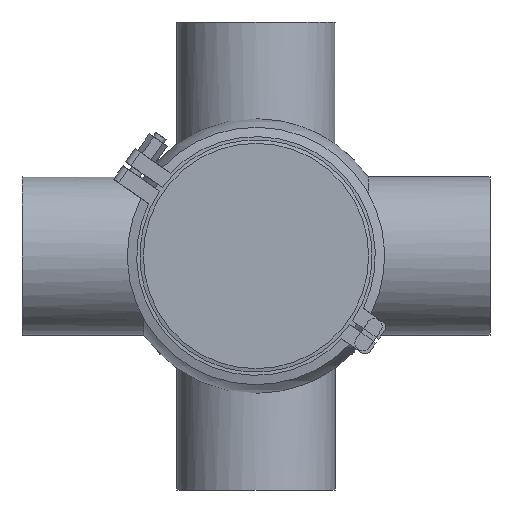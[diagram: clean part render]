
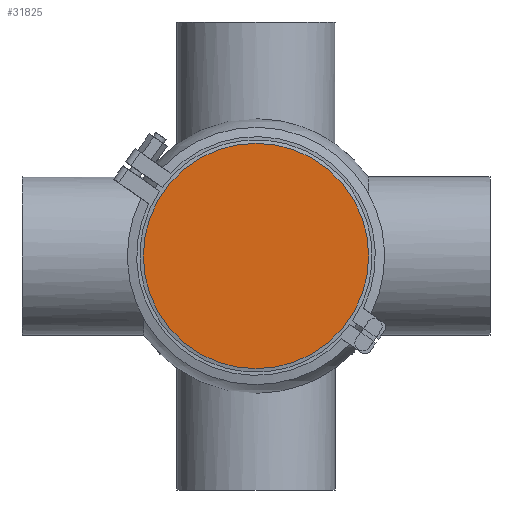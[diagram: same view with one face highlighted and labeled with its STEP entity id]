
A CAD part, front view. The second image highlights one B-rep face of the part: STEP entity #31825.
In plain terms, the highlighted planar face has unit normal (0, -1, 0).
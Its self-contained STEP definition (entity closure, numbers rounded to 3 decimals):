
#1245 = CARTESIAN_POINT ( 'NONE',  ( 0., 0., 72.25 ) ) ;
#2668 = AXIS2_PLACEMENT_3D ( 'NONE', #45936, #26470, #8291 ) ;
#8291 = DIRECTION ( 'NONE',  ( 0., 0., -1. ) ) ;
#12935 = EDGE_CURVE ( 'NONE', #49412, #49412, #29051, .T. ) ;
#13482 = DIRECTION ( 'NONE',  ( 0., 1., 0. ) ) ;
#24579 = EDGE_LOOP ( 'NONE', ( #26239 ) ) ;
#26239 = ORIENTED_EDGE ( 'NONE', *, *, #12935, .F. ) ;
#26470 = DIRECTION ( 'NONE',  ( 0., -1., 0. ) ) ;
#29051 = CIRCLE ( 'NONE', #37897, 72.25 ) ;
#31825 = ADVANCED_FACE ( 'NONE', ( #50277 ), #46232, .T. ) ;
#32271 = DIRECTION ( 'NONE',  ( 0., 0., 1. ) ) ;
#37897 = AXIS2_PLACEMENT_3D ( 'NONE', #39387, #13482, #32271 ) ;
#39387 = CARTESIAN_POINT ( 'NONE',  ( 0., 0., 0. ) ) ;
#45936 = CARTESIAN_POINT ( 'NONE',  ( -72.25, 0., 0. ) ) ;
#46232 = PLANE ( 'NONE',  #2668 ) ;
#49412 = VERTEX_POINT ( 'NONE', #1245 ) ;
#50277 = FACE_OUTER_BOUND ( 'NONE', #24579, .T. ) ;
